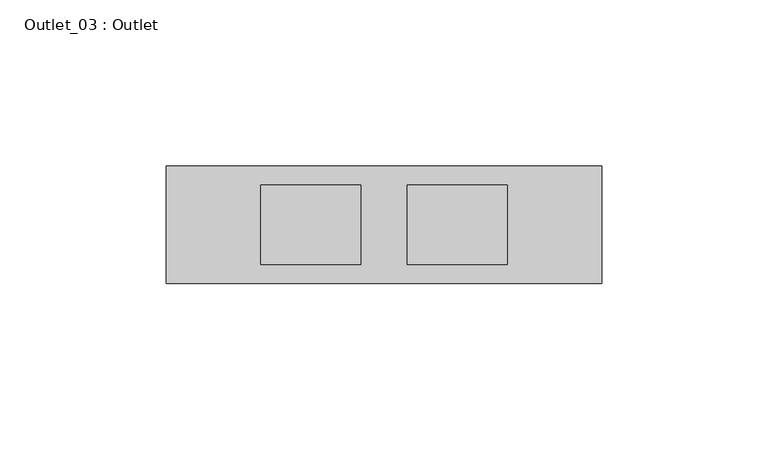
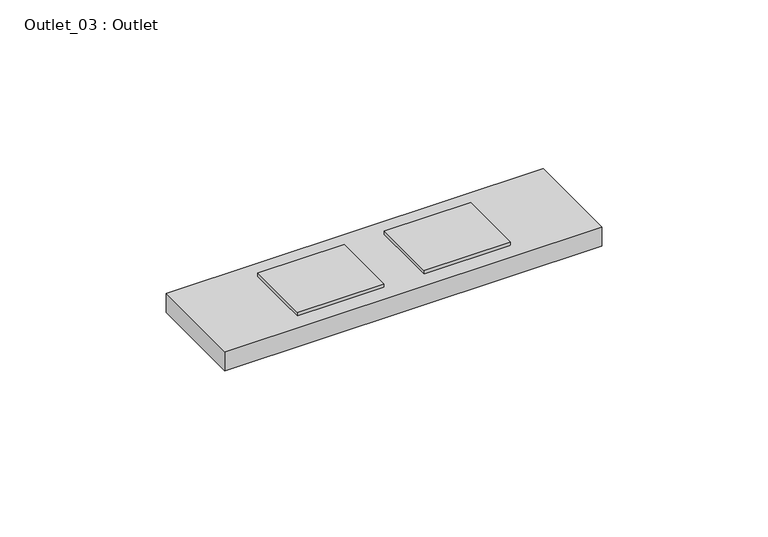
"""IFC4 building model written with IfcOpenShell, lengths in millimetres: switching device geometry, Outlet_03 : Outlet."""

from ifc_helpers import new_model, si_unit, frame, origin, origin_with_axes, place, context, project, spatial, polyline, outline, extrude, source, transform, mapped, element, save


def outlet_03_outlet_fbeceace(model_context):
    return source(origin(), model_context, "Body", "SweptSolid", [
        extrude(outline(polyline([(7.0, 11.9019878), (37.0, 11.9019878), (37.0, -11.9020045), (7.0, -11.9020045), (7.0, 11.9019878)])), frame((0.0, 0.0, 5.6999725), z_axis=(0.0, 0.0, 1.0), x_axis=(1.0, 0.0, 0.0)), (0.0, 0.0, 1.0), 2.2999722),
        extrude(outline(polyline([(-37.0, 11.9019878), (-7.0, 11.9019878), (-7.0, -11.9020045), (-37.0, -11.9020045), (-37.0, 11.9019878)])), frame((0.0, 0.0, 5.6999725), z_axis=(0.0, 0.0, 1.0), x_axis=(1.0, 0.0, 0.0)), (0.0, 0.0, 1.0), 2.2999722),
        extrude(outline(polyline([(65.447998, 17.6499868), (65.447998, -17.6500023), (-65.447998, -17.6500023), (-65.447998, 17.6499868), (65.447998, 17.6499868)])), origin_with_axes(), (0.0, 0.0, 1.0), 6.9999463),
    ])


if __name__ == "__main__":
    model = new_model("IFC4")
    model_context = context("Model", 3, world=origin())
    ifc_project = project(units=[si_unit("LENGTHUNIT", "METRE", prefix="MILLI")], contexts=[model_context])
    site = spatial("IfcSite", under=ifc_project)
    building = spatial("IfcBuilding", under=site)
    placement = place(None, origin())
    outlet_03_outlet_shape = outlet_03_outlet_fbeceace(model_context)
    element("IfcSwitchingDevice", 1, ObjectType="Outlet_03 : Outlet", at=placement, inside=building, context=model_context, shape_type="MappedRepresentation", body=[
        mapped(outlet_03_outlet_shape, transform((0.0, 0.0, 0.0), x_axis=(1.0, 0.0, 0.0), y_axis=(0.0, 1.0, 0.0), z_axis=(0.0, 0.0, 1.0))),
    ])
    save(model, "model.ifc")
